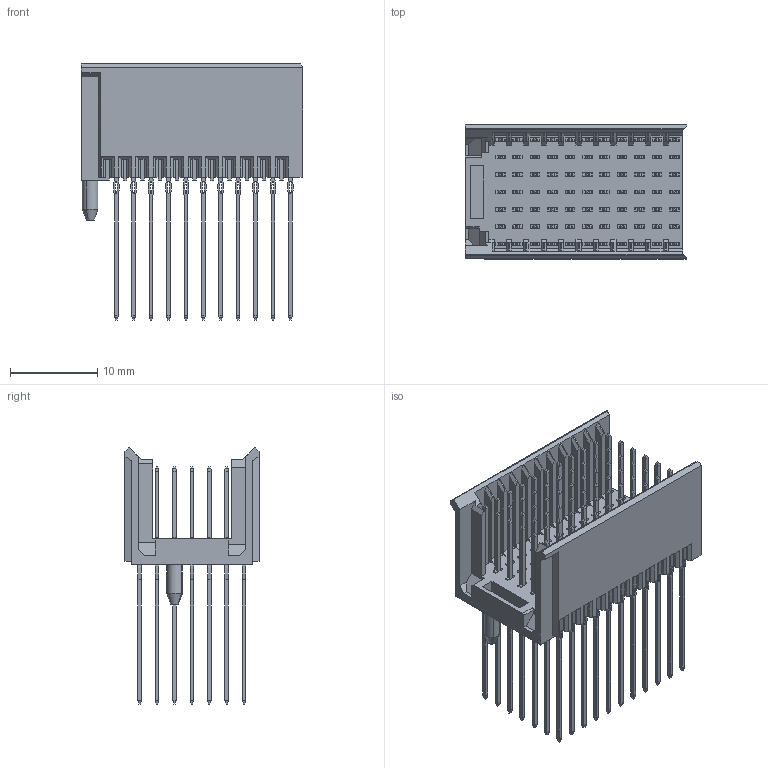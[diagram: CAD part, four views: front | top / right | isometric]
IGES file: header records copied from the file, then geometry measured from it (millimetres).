
Start section: START RECORD GO HERE.
Global section: file name: 8071CR001007.igs; native system: IBM CATIA IGES - CATIA Version 5 Release 14 ; preprocessor: CATIA Version 5 Release 14 ; author: Engineering Dept.; organization: KYOCERA ELCO Corporation; date: 20100325.100337; units: millimetre
Bounding box: 25.4 x 15.4 x 29.45 mm (x, y, z)
Surface area: 6032 mm2 (no closed solid volume)
Topology: 0 solids, 3952 shells, 3952 faces, 21778 edges, 21778 vertices
Faces by surface type: plane 2695, revolution 1257
